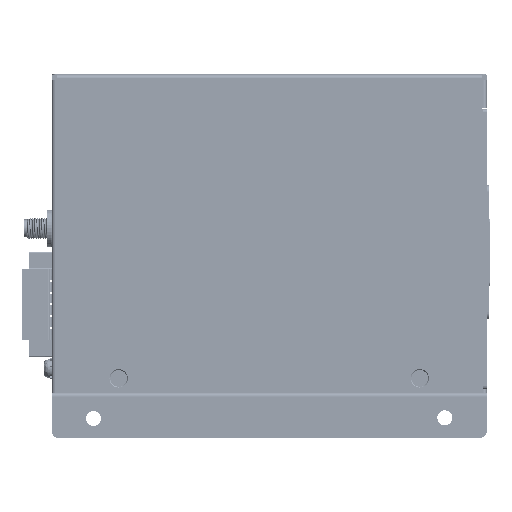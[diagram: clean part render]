
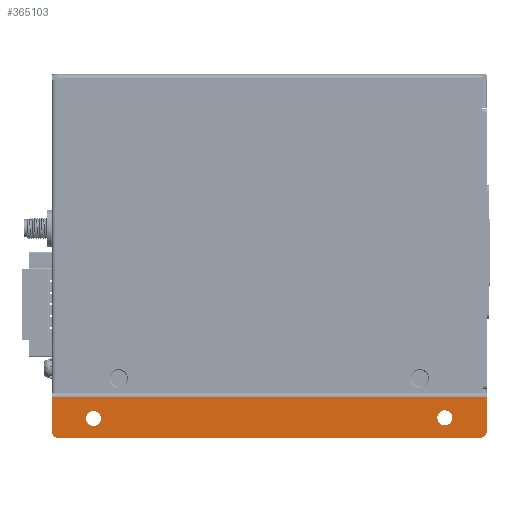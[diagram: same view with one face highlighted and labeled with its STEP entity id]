
A CAD part, left-side view. The second image highlights one B-rep face of the part: STEP entity #365103.
In plain terms, the highlighted planar face has unit normal (-1, 0, 0) as drawn and (0, -1, 0) by its records, which use the part's own axes.
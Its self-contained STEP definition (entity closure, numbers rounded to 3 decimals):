
#14688 = DIRECTION ( 'NONE',  ( -1., 0., 0. ) ) ;
#15638 = ORIENTED_EDGE ( 'NONE', *, *, #506142, .T. ) ;
#20777 = CARTESIAN_POINT ( 'NONE',  ( 11.5, 0., 63. ) ) ;
#39825 = AXIS2_PLACEMENT_3D ( 'NONE', #729691, #677967, #674331 ) ;
#43391 = DIRECTION ( 'NONE',  ( -1., 0., 0. ) ) ;
#49024 = AXIS2_PLACEMENT_3D ( 'NONE', #57943, #500843, #168429 ) ;
#57943 = CARTESIAN_POINT ( 'NONE',  ( 7.683, 0., -52.5 ) ) ;
#61673 = EDGE_CURVE ( 'NONE', #300289, #699982, #604445, .T. ) ;
#67975 = DIRECTION ( 'NONE',  ( 0., -1., 0. ) ) ;
#68620 = AXIS2_PLACEMENT_3D ( 'NONE', #149790, #651965, #315874 ) ;
#83417 = DIRECTION ( 'NONE',  ( -1., 0., 0. ) ) ;
#143102 = AXIS2_PLACEMENT_3D ( 'NONE', #20777, #644490, #83417 ) ;
#149790 = CARTESIAN_POINT ( 'NONE',  ( 7.5, 0., 52.5 ) ) ;
#156284 = ORIENTED_EDGE ( 'NONE', *, *, #551123, .F. ) ;
#161195 = CARTESIAN_POINT ( 'NONE',  ( 1.2, 0., -65. ) ) ;
#168429 = DIRECTION ( 'NONE',  ( 1., 0., 0. ) ) ;
#173864 = CARTESIAN_POINT ( 'NONE',  ( 9.933, 0., -52.5 ) ) ;
#178830 = EDGE_CURVE ( 'NONE', #557081, #209595, #302195, .T. ) ;
#203667 = VERTEX_POINT ( 'NONE', #566759 ) ;
#209595 = VERTEX_POINT ( 'NONE', #570915 ) ;
#232338 = ORIENTED_EDGE ( 'NONE', *, *, #523765, .T. ) ;
#233407 = CARTESIAN_POINT ( 'NONE',  ( 11.5, 0., 65. ) ) ;
#238736 = CARTESIAN_POINT ( 'NONE',  ( 1.2, 0., -65. ) ) ;
#243332 = DIRECTION ( 'NONE',  ( 0., 1., 0. ) ) ;
#249758 = EDGE_CURVE ( 'NONE', #300289, #400521, #475954, .T. ) ;
#250161 = VECTOR ( 'NONE', #668832, 1000. ) ;
#262782 = LINE ( 'NONE', #266438, #250161 ) ;
#266438 = CARTESIAN_POINT ( 'NONE',  ( 13.5, 0., 65. ) ) ;
#268473 = CARTESIAN_POINT ( 'NONE',  ( 13.5, 0., -63. ) ) ;
#295007 = ORIENTED_EDGE ( 'NONE', *, *, #61673, .F. ) ;
#300289 = VERTEX_POINT ( 'NONE', #495189 ) ;
#301016 = DIRECTION ( 'NONE',  ( 0., -1., 0. ) ) ;
#302195 = CIRCLE ( 'NONE', #537955, 2.25 ) ;
#305865 = CARTESIAN_POINT ( 'NONE',  ( 13.5, 0., -65. ) ) ;
#311750 = AXIS2_PLACEMENT_3D ( 'NONE', #352044, #67975, #680820 ) ;
#315874 = DIRECTION ( 'NONE',  ( 1., 0., 0. ) ) ;
#337816 = EDGE_LOOP ( 'NONE', ( #373255, #341587 ) ) ;
#339805 = CIRCLE ( 'NONE', #68620, 2.25 ) ;
#341587 = ORIENTED_EDGE ( 'NONE', *, *, #355673, .F. ) ;
#344247 = VERTEX_POINT ( 'NONE', #173864 ) ;
#352044 = CARTESIAN_POINT ( 'NONE',  ( 7.683, 0., -52.5 ) ) ;
#355673 = EDGE_CURVE ( 'NONE', #209595, #557081, #339805, .T. ) ;
#357820 = ORIENTED_EDGE ( 'NONE', *, *, #249758, .T. ) ;
#365103 = ADVANCED_FACE ( 'NONE', ( #634941, #693915, #420460 ), #697473, .F. ) ;
#373255 = ORIENTED_EDGE ( 'NONE', *, *, #178830, .F. ) ;
#375467 = EDGE_CURVE ( 'NONE', #400521, #543911, #581086, .T. ) ;
#400521 = VERTEX_POINT ( 'NONE', #268473 ) ;
#407547 = ORIENTED_EDGE ( 'NONE', *, *, #534851, .T. ) ;
#420460 = FACE_OUTER_BOUND ( 'NONE', #597351, .T. ) ;
#444740 = CARTESIAN_POINT ( 'NONE',  ( 9.75, 0., 52.5 ) ) ;
#455851 = CARTESIAN_POINT ( 'NONE',  ( 13.5, 0., -65. ) ) ;
#461433 = CIRCLE ( 'NONE', #143102, 2. ) ;
#475954 = CIRCLE ( 'NONE', #39825, 2. ) ;
#487817 = EDGE_LOOP ( 'NONE', ( #668771, #156284 ) ) ;
#493641 = LINE ( 'NONE', #161195, #674639 ) ;
#495189 = CARTESIAN_POINT ( 'NONE',  ( 11.5, 0., -65. ) ) ;
#500843 = DIRECTION ( 'NONE',  ( 0., -1., 0. ) ) ;
#501477 = VERTEX_POINT ( 'NONE', #720283 ) ;
#506142 = EDGE_CURVE ( 'NONE', #583235, #501477, #262782, .T. ) ;
#523765 = EDGE_CURVE ( 'NONE', #543911, #583235, #461433, .T. ) ;
#525511 = VECTOR ( 'NONE', #695500, 1000. ) ;
#526374 = DIRECTION ( 'NONE',  ( 1., 0., 0. ) ) ;
#534851 = EDGE_CURVE ( 'NONE', #501477, #699982, #493641, .T. ) ;
#537955 = AXIS2_PLACEMENT_3D ( 'NONE', #685376, #301016, #526374 ) ;
#543911 = VERTEX_POINT ( 'NONE', #679488 ) ;
#551123 = EDGE_CURVE ( 'NONE', #203667, #344247, #630336, .T. ) ;
#557081 = VERTEX_POINT ( 'NONE', #444740 ) ;
#566759 = CARTESIAN_POINT ( 'NONE',  ( 5.433, 0., -52.5 ) ) ;
#567368 = CIRCLE ( 'NONE', #49024, 2.25 ) ;
#570915 = CARTESIAN_POINT ( 'NONE',  ( 5.25, 0., 52.5 ) ) ;
#581086 = LINE ( 'NONE', #455851, #525511 ) ;
#583235 = VERTEX_POINT ( 'NONE', #233407 ) ;
#597351 = EDGE_LOOP ( 'NONE', ( #295007, #357820, #619022, #232338, #15638, #407547 ) ) ;
#604445 = LINE ( 'NONE', #726044, #724334 ) ;
#619022 = ORIENTED_EDGE ( 'NONE', *, *, #375467, .T. ) ;
#619816 = EDGE_CURVE ( 'NONE', #344247, #203667, #567368, .T. ) ;
#630336 = CIRCLE ( 'NONE', #311750, 2.25 ) ;
#634941 = FACE_BOUND ( 'NONE', #337816, .T. ) ;
#644490 = DIRECTION ( 'NONE',  ( 0., -1., 0. ) ) ;
#651965 = DIRECTION ( 'NONE',  ( 0., -1., 0. ) ) ;
#663430 = DIRECTION ( 'NONE',  ( 0., 0., -1. ) ) ;
#665933 = AXIS2_PLACEMENT_3D ( 'NONE', #305865, #243332, #14688 ) ;
#668771 = ORIENTED_EDGE ( 'NONE', *, *, #619816, .F. ) ;
#668832 = DIRECTION ( 'NONE',  ( -1., 0., 0. ) ) ;
#674331 = DIRECTION ( 'NONE',  ( -1., 0., 0. ) ) ;
#674639 = VECTOR ( 'NONE', #663430, 1000. ) ;
#677967 = DIRECTION ( 'NONE',  ( 0., -1., 0. ) ) ;
#679488 = CARTESIAN_POINT ( 'NONE',  ( 13.5, 0., 63. ) ) ;
#680820 = DIRECTION ( 'NONE',  ( 1., 0., 0. ) ) ;
#685376 = CARTESIAN_POINT ( 'NONE',  ( 7.5, 0., 52.5 ) ) ;
#693915 = FACE_BOUND ( 'NONE', #487817, .T. ) ;
#695500 = DIRECTION ( 'NONE',  ( 0., 0., 1. ) ) ;
#697473 = PLANE ( 'NONE',  #665933 ) ;
#699982 = VERTEX_POINT ( 'NONE', #238736 ) ;
#720283 = CARTESIAN_POINT ( 'NONE',  ( 1.2, 0., 65. ) ) ;
#724334 = VECTOR ( 'NONE', #43391, 1000. ) ;
#726044 = CARTESIAN_POINT ( 'NONE',  ( 13.5, 0., -65. ) ) ;
#729691 = CARTESIAN_POINT ( 'NONE',  ( 11.5, 0., -63. ) ) ;
